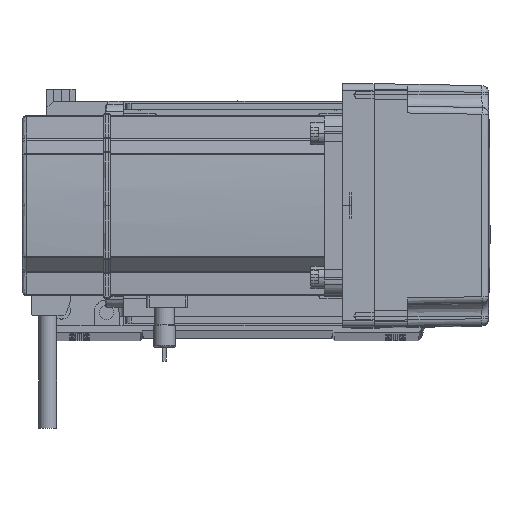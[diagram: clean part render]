
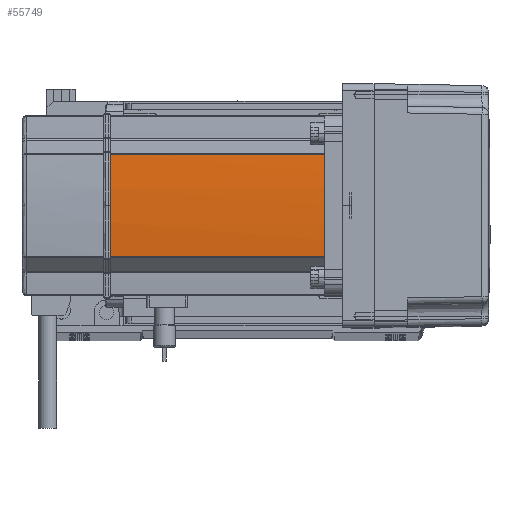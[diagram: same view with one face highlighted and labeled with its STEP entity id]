
A CAD part, top view. The second image highlights one B-rep face of the part: STEP entity #55749.
In plain terms, the highlighted cylindrical face has radius 270 mm (diameter 540 mm), a partial arc.
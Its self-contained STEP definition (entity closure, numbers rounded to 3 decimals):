
#608 = DIRECTION ( 'NONE',  ( 0., 0., 1. ) ) ;
#2127 = CARTESIAN_POINT ( 'NONE',  ( 230., 0., 134. ) ) ;
#3267 = AXIS2_PLACEMENT_3D ( 'NONE', #2127, #50195, #49578 ) ;
#3353 = DIRECTION ( 'NONE',  ( 0., 0., -1. ) ) ;
#3641 = CARTESIAN_POINT ( 'NONE',  ( 230., 0., 0. ) ) ;
#6733 = CARTESIAN_POINT ( 'NONE',  ( 230., 0., 39. ) ) ;
#7996 = ORIENTED_EDGE ( 'NONE', *, *, #27988, .T. ) ;
#8207 = CARTESIAN_POINT ( 'NONE',  ( -39.042, 22.724, 0. ) ) ;
#8786 = ORIENTED_EDGE ( 'NONE', *, *, #8843, .T. ) ;
#8843 = EDGE_CURVE ( 'NONE', #21581, #41064, #22281, .T. ) ;
#10756 = ORIENTED_EDGE ( 'NONE', *, *, #56102, .T. ) ;
#13870 = CARTESIAN_POINT ( 'NONE',  ( -39.042, 22.724, 39. ) ) ;
#14443 = AXIS2_PLACEMENT_3D ( 'NONE', #6733, #26123, #35333 ) ;
#14648 = DIRECTION ( 'NONE',  ( 0., 0., -1. ) ) ;
#14857 = VERTEX_POINT ( 'NONE', #13870 ) ;
#15652 = ORIENTED_EDGE ( 'NONE', *, *, #30062, .F. ) ;
#17218 = EDGE_CURVE ( 'NONE', #41064, #14857, #30679, .T. ) ;
#19681 = VECTOR ( 'NONE', #608, 1000. ) ;
#21581 = VERTEX_POINT ( 'NONE', #46131 ) ;
#22281 = CIRCLE ( 'NONE', #60366, 270. ) ;
#22900 = VERTEX_POINT ( 'NONE', #61736 ) ;
#23027 = DIRECTION ( 'NONE',  ( 0., 0., 1. ) ) ;
#23851 = CIRCLE ( 'NONE', #14443, 270. ) ;
#24795 = CARTESIAN_POINT ( 'NONE',  ( -39.042, -22.724, 134. ) ) ;
#26123 = DIRECTION ( 'NONE',  ( 0., 0., -1. ) ) ;
#27988 = EDGE_CURVE ( 'NONE', #22900, #38134, #28673, .T. ) ;
#28599 = ORIENTED_EDGE ( 'NONE', *, *, #17218, .T. ) ;
#28631 = DIRECTION ( 'NONE',  ( 1., 0., 0. ) ) ;
#28673 = LINE ( 'NONE', #43852, #19681 ) ;
#30062 = EDGE_CURVE ( 'NONE', #22900, #14857, #23851, .T. ) ;
#30679 = LINE ( 'NONE', #8207, #47891 ) ;
#35333 = DIRECTION ( 'NONE',  ( 1., 0., 0. ) ) ;
#38134 = VERTEX_POINT ( 'NONE', #24795 ) ;
#41064 = VERTEX_POINT ( 'NONE', #45677 ) ;
#42551 = DIRECTION ( 'NONE',  ( 1., 0., 0. ) ) ;
#43067 = CARTESIAN_POINT ( 'NONE',  ( 230., 0., 134. ) ) ;
#43852 = CARTESIAN_POINT ( 'NONE',  ( -39.042, -22.724, 0. ) ) ;
#44446 = EDGE_LOOP ( 'NONE', ( #10756, #8786, #28599, #15652, #7996 ) ) ;
#45677 = CARTESIAN_POINT ( 'NONE',  ( -39.042, 22.724, 134. ) ) ;
#46131 = CARTESIAN_POINT ( 'NONE',  ( -40., 0., 134. ) ) ;
#47891 = VECTOR ( 'NONE', #3353, 1000. ) ;
#49578 = DIRECTION ( 'NONE',  ( 1., 0., 0. ) ) ;
#50195 = DIRECTION ( 'NONE',  ( 0., 0., -1. ) ) ;
#53751 = AXIS2_PLACEMENT_3D ( 'NONE', #3641, #23027, #42551 ) ;
#54578 = CIRCLE ( 'NONE', #3267, 270. ) ;
#55749 = ADVANCED_FACE ( 'NONE', ( #60532 ), #59049, .T. ) ;
#56102 = EDGE_CURVE ( 'NONE', #38134, #21581, #54578, .T. ) ;
#59049 = CYLINDRICAL_SURFACE ( 'NONE', #53751, 270. ) ;
#60366 = AXIS2_PLACEMENT_3D ( 'NONE', #43067, #14648, #28631 ) ;
#60532 = FACE_OUTER_BOUND ( 'NONE', #44446, .T. ) ;
#61736 = CARTESIAN_POINT ( 'NONE',  ( -39.042, -22.724, 39. ) ) ;
